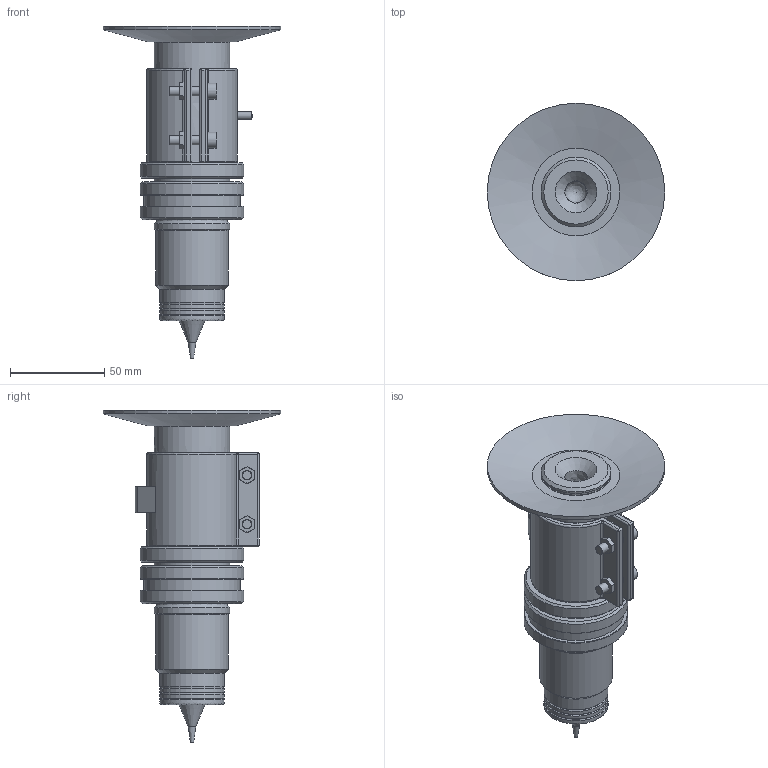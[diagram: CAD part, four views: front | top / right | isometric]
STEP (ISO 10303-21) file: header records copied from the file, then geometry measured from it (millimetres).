
FILE_DESCRIPTION(('STEP AP214'),'1');
FILE_NAME('IPS1000-A.stp','2018-06-14T08:33:04',(' '),(' '),'Spatial InterOp 3D',' ',' ');
FILE_SCHEMA(('AUTOMOTIVE_DESIGN { 1 0 10303 214 1 1 1 1 }'));
Length unit declared in the file: millimetre
Products named in the file (1): 1
Bounding box: 94 x 94 x 175.82 mm (x, y, z)
Volume: 220507.5 mm3; surface area: 80128.1 mm2
Topology: 9 solids, 9 shells, 212 faces, 450 edges, 270 vertices
Faces by surface type: plane 94, cylinder 58, cone 37, revolution 10, torus 9, bspline 4
Full cylindrical faces by diameter (mm): 4 x1, 4.2 x2, 5 x3, 5.5 x4, 6.55 x1, 8.5 x2, 9.1 x1, 9.5 x1, 9.51 x1, 14.5 x1, 14.52 x1, 30 x2, 34 x3, 35 x1, 37 x3, 38.5 x1, 39.8 x1, 40 x3, 51 x1, 55 x3, 94 x1
Entity records: 7671 total; most frequent: CARTESIAN_POINT 1774, DIRECTION 906, ORIENTED_EDGE 674, AXIS2_PLACEMENT_3D 365, EDGE_CURVE 337, EDGE_LOOP 336, FACE_OUTER_BOUND 263, VERTEX_POINT 254
